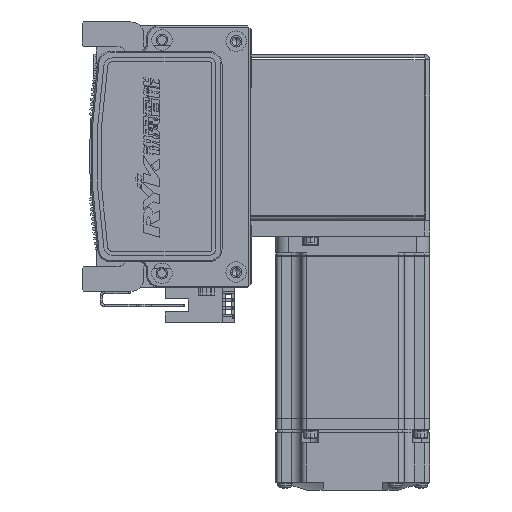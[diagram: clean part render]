
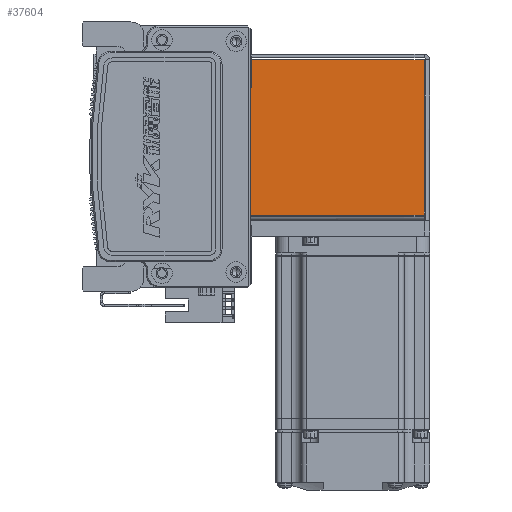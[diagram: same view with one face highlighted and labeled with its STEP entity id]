
A CAD part, left-side view. The second image highlights one B-rep face of the part: STEP entity #37604.
In plain terms, the highlighted planar face has unit normal (-1, 0, 0) as drawn and (0, 0, -1) by its records, which use the part's own axes.
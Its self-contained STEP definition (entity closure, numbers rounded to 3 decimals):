
#114 = AXIS2_PLACEMENT_3D ( 'NONE', #7349, #69184, #57488 ) ;
#4020 = VECTOR ( 'NONE', #18789, 1000. ) ;
#5737 = DIRECTION ( 'NONE',  ( 0., -1., 0. ) ) ;
#7349 = CARTESIAN_POINT ( 'NONE',  ( 0., 0., -35. ) ) ;
#7440 = LINE ( 'NONE', #19024, #4020 ) ;
#8100 = VERTEX_POINT ( 'NONE', #61440 ) ;
#9845 = VERTEX_POINT ( 'NONE', #41527 ) ;
#10978 = CARTESIAN_POINT ( 'NONE',  ( 32.5, 0.737, -35. ) ) ;
#12758 = PLANE ( 'NONE',  #114 ) ;
#14336 = VECTOR ( 'NONE', #35194, 1000. ) ;
#16097 = LINE ( 'NONE', #51212, #14336 ) ;
#18789 = DIRECTION ( 'NONE',  ( 1., 0., 0. ) ) ;
#19024 = CARTESIAN_POINT ( 'NONE',  ( 0., 72.5, -35. ) ) ;
#20580 = ORIENTED_EDGE ( 'NONE', *, *, #58490, .T. ) ;
#25498 = EDGE_CURVE ( 'NONE', #9845, #8100, #32975, .T. ) ;
#31238 = VECTOR ( 'NONE', #61342, 1000. ) ;
#32322 = CARTESIAN_POINT ( 'NONE',  ( 30.263, 72.5, -35. ) ) ;
#32975 = LINE ( 'NONE', #10978, #31238 ) ;
#35194 = DIRECTION ( 'NONE',  ( 0., 1., 0. ) ) ;
#36167 = LINE ( 'NONE', #55350, #63127 ) ;
#37604 = ADVANCED_FACE ( 'NONE', ( #46441 ), #12758, .F. ) ;
#39686 = ORIENTED_EDGE ( 'NONE', *, *, #45989, .T. ) ;
#41527 = CARTESIAN_POINT ( 'NONE',  ( -30.293, 0.737, -35. ) ) ;
#42655 = ORIENTED_EDGE ( 'NONE', *, *, #53455, .T. ) ;
#45989 = EDGE_CURVE ( 'NONE', #9845, #64864, #16097, .T. ) ;
#46441 = FACE_OUTER_BOUND ( 'NONE', #70220, .T. ) ;
#51212 = CARTESIAN_POINT ( 'NONE',  ( -30.293, 0., -35. ) ) ;
#52759 = CARTESIAN_POINT ( 'NONE',  ( -30.293, 72.5, -35. ) ) ;
#53455 = EDGE_CURVE ( 'NONE', #67149, #8100, #36167, .T. ) ;
#55350 = CARTESIAN_POINT ( 'NONE',  ( 30.263, 72.5, -35. ) ) ;
#57488 = DIRECTION ( 'NONE',  ( 0., -1., 0. ) ) ;
#58490 = EDGE_CURVE ( 'NONE', #64864, #67149, #7440, .T. ) ;
#61342 = DIRECTION ( 'NONE',  ( 1., 0., 0. ) ) ;
#61440 = CARTESIAN_POINT ( 'NONE',  ( 30.263, 0.737, -35. ) ) ;
#62621 = ORIENTED_EDGE ( 'NONE', *, *, #25498, .F. ) ;
#63127 = VECTOR ( 'NONE', #5737, 1000. ) ;
#64864 = VERTEX_POINT ( 'NONE', #52759 ) ;
#67149 = VERTEX_POINT ( 'NONE', #32322 ) ;
#69184 = DIRECTION ( 'NONE',  ( 0., 0., 1. ) ) ;
#70220 = EDGE_LOOP ( 'NONE', ( #42655, #62621, #39686, #20580 ) ) ;
